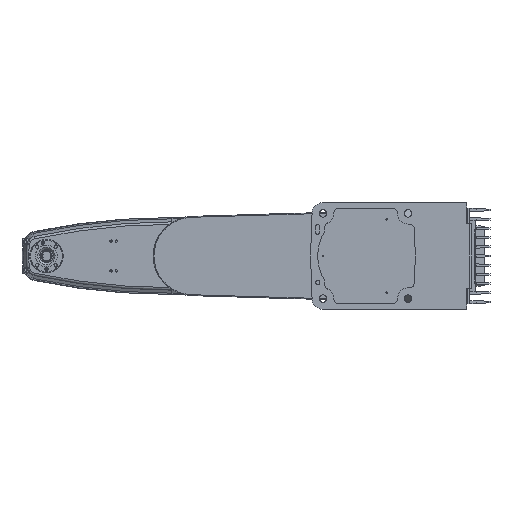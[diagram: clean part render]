
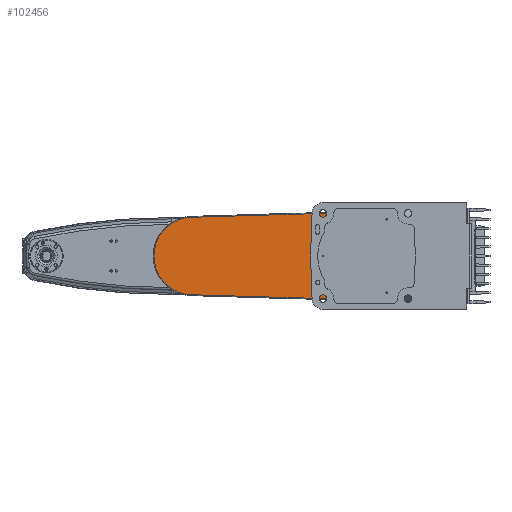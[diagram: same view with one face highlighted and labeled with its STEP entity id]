
A CAD part, front view. The second image highlights one B-rep face of the part: STEP entity #102456.
In plain terms, the highlighted planar face has unit normal (0, -1, 0) as drawn and (0, 1, 0) by its records, which use the part's own axes.
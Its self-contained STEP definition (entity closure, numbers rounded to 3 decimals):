
#3532 = CARTESIAN_POINT ( 'NONE',  ( 0., 10., 82.337 ) ) ;
#3533 = DIRECTION ( 'NONE',  ( 0., 0., -1. ) ) ;
#3534 = DIRECTION ( 'NONE',  ( 0., -1., 0. ) ) ;
#3535 = CARTESIAN_POINT ( 'NONE',  ( 0., 10., 0. ) ) ;
#3537 = AXIS2_PLACEMENT_3D ( 'NONE', #3535, #3534, #3533 ) ;
#3539 = CIRCLE ( 'NONE', #3537, 82.337 ) ;
#3545 = CARTESIAN_POINT ( 'NONE',  ( 0., 10., -82.337 ) ) ;
#4094 = CARTESIAN_POINT ( 'NONE',  ( -2.407, 10., -82.302 ) ) ;
#4452 = DIRECTION ( 'NONE',  ( 0., 0., -1. ) ) ;
#4453 = DIRECTION ( 'NONE',  ( 0., -1., 0. ) ) ;
#4454 = CARTESIAN_POINT ( 'NONE',  ( 0., 10., 0. ) ) ;
#4455 = AXIS2_PLACEMENT_3D ( 'NONE', #4454, #4453, #4452 ) ;
#4456 = CIRCLE ( 'NONE', #4455, 82.337 ) ;
#5980 = CARTESIAN_POINT ( 'NONE',  ( -2.407, 10., 82.302 ) ) ;
#5981 = DIRECTION ( 'NONE',  ( -1., 0., -0.029 ) ) ;
#5982 = VECTOR ( 'NONE', #5981, 1000. ) ;
#5984 = CARTESIAN_POINT ( 'NONE',  ( -2.407, 10., 82.302 ) ) ;
#5985 = LINE ( 'NONE', #5984, #5982 ) ;
#5992 = CARTESIAN_POINT ( 'NONE',  ( -327.129, 10., 72.806 ) ) ;
#6128 = DIRECTION ( 'NONE',  ( 0., 1., 0. ) ) ;
#6129 = CARTESIAN_POINT ( 'NONE',  ( -325., 10., 0. ) ) ;
#6130 = AXIS2_PLACEMENT_3D ( 'NONE', #6129, #6128, #6250 ) ;
#6131 = CIRCLE ( 'NONE', #6130, 72.837 ) ;
#6135 = DIRECTION ( 'NONE',  ( 0., 0., 1. ) ) ;
#6136 = DIRECTION ( 'NONE',  ( 0., 1., 0. ) ) ;
#6138 = CARTESIAN_POINT ( 'NONE',  ( -2.407, 10., -82.302 ) ) ;
#6139 = AXIS2_PLACEMENT_3D ( 'NONE', #6138, #6136, #6135 ) ;
#6141 = PLANE ( 'NONE',  #6139 ) ;
#6145 = FACE_OUTER_BOUND ( 'NONE', #102457, .T. ) ;
#6238 = DIRECTION ( 'NONE',  ( 0., 0., -1. ) ) ;
#6239 = DIRECTION ( 'NONE',  ( 0., -1., 0. ) ) ;
#6240 = CARTESIAN_POINT ( 'NONE',  ( 0., 10., 0. ) ) ;
#6241 = AXIS2_PLACEMENT_3D ( 'NONE', #6240, #6239, #6238 ) ;
#6242 = CIRCLE ( 'NONE', #6241, 82.337 ) ;
#6249 = CARTESIAN_POINT ( 'NONE',  ( -327.129, 10., -72.806 ) ) ;
#6250 = DIRECTION ( 'NONE',  ( 0., 0., 1. ) ) ;
#6361 = DIRECTION ( 'NONE',  ( -1., 0., 0.029 ) ) ;
#6362 = VECTOR ( 'NONE', #6361, 1000. ) ;
#6364 = CARTESIAN_POINT ( 'NONE',  ( -2.407, 10., -82.302 ) ) ;
#6374 = LINE ( 'NONE', #6364, #6362 ) ;
#101891 = VERTEX_POINT ( 'NONE', #3545 ) ;
#101892 = EDGE_CURVE ( 'NONE', #101891, #101893, #3539, .T. ) ;
#101893 = VERTEX_POINT ( 'NONE', #3532 ) ;
#101991 = VERTEX_POINT ( 'NONE', #4094 ) ;
#102116 = EDGE_CURVE ( 'NONE', #101991, #101891, #4456, .T. ) ;
#102392 = VERTEX_POINT ( 'NONE', #5992 ) ;
#102394 = ORIENTED_EDGE ( 'NONE', *, *, #102395, .F. ) ;
#102395 = EDGE_CURVE ( 'NONE', #102396, #102392, #5985, .T. ) ;
#102396 = VERTEX_POINT ( 'NONE', #5980 ) ;
#102456 = ADVANCED_FACE ( 'NONE', ( #6145 ), #6141, .T. ) ;
#102457 = EDGE_LOOP ( 'NONE', ( #102458, #102394, #102463, #102465, #102513, #102516 ) ) ;
#102458 = ORIENTED_EDGE ( 'NONE', *, *, #102459, .T. ) ;
#102459 = EDGE_CURVE ( 'NONE', #102460, #102392, #6131, .T. ) ;
#102460 = VERTEX_POINT ( 'NONE', #6249 ) ;
#102463 = ORIENTED_EDGE ( 'NONE', *, *, #102464, .F. ) ;
#102464 = EDGE_CURVE ( 'NONE', #101893, #102396, #6242, .T. ) ;
#102465 = ORIENTED_EDGE ( 'NONE', *, *, #101892, .F. ) ;
#102513 = ORIENTED_EDGE ( 'NONE', *, *, #102116, .F. ) ;
#102516 = ORIENTED_EDGE ( 'NONE', *, *, #102517, .T. ) ;
#102517 = EDGE_CURVE ( 'NONE', #101991, #102460, #6374, .T. ) ;
